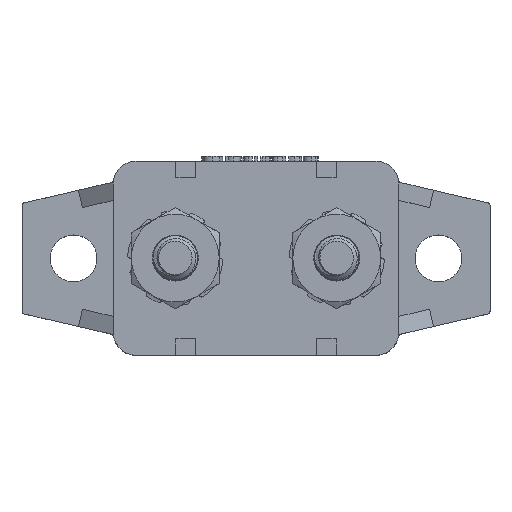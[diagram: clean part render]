
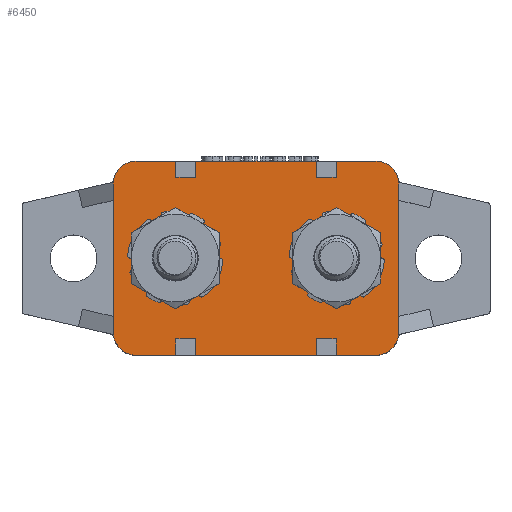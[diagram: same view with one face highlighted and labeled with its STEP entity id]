
A CAD part, top view. The second image highlights one B-rep face of the part: STEP entity #6450.
In plain terms, the highlighted planar face has unit normal (0, 0, 1).
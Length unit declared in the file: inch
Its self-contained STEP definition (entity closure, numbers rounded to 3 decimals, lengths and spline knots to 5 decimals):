
#695=PLANE('',#6845);
#925=FACE_OUTER_BOUND('',#1293,.T.);
#1293=EDGE_LOOP('',(#5265,#5266,#5267,#5268,#5269,#5270,#5271,#5272,#5273,
#5274,#5275,#5276,#5277,#5278,#5279,#5280,#5281,#5282,#5283,#5284,#5285,
#5286,#5287,#5288));
#1764=LINE('',#10814,#2228);
#1768=LINE('',#10822,#2232);
#1771=LINE('',#10828,#2235);
#1774=LINE('',#10835,#2238);
#1778=LINE('',#10843,#2242);
#1781=LINE('',#10849,#2245);
#1784=LINE('',#10856,#2248);
#1788=LINE('',#10864,#2252);
#1791=LINE('',#10870,#2255);
#1796=LINE('',#10879,#2260);
#1797=LINE('',#10882,#2261);
#1809=LINE('',#10912,#2273);
#1811=LINE('',#10915,#2275);
#1812=LINE('',#10919,#2276);
#1813=LINE('',#10923,#2277);
#1814=LINE('',#10925,#2278);
#1815=LINE('',#10927,#2279);
#1816=LINE('',#10928,#2280);
#1817=LINE('',#10930,#2281);
#1818=LINE('',#10934,#2282);
#2228=VECTOR('',#7739,0.3937);
#2232=VECTOR('',#7745,0.3937);
#2235=VECTOR('',#7750,0.3937);
#2238=VECTOR('',#7755,0.3937);
#2242=VECTOR('',#7761,0.3937);
#2245=VECTOR('',#7766,0.3937);
#2248=VECTOR('',#7771,0.3937);
#2252=VECTOR('',#7777,0.3937);
#2255=VECTOR('',#7782,0.3937);
#2260=VECTOR('',#7789,0.3937);
#2261=VECTOR('',#7792,0.3937);
#2273=VECTOR('',#7816,0.3937);
#2275=VECTOR('',#7820,0.3937);
#2276=VECTOR('',#7823,0.3937);
#2277=VECTOR('',#7826,0.3937);
#2278=VECTOR('',#7827,0.3937);
#2279=VECTOR('',#7828,0.3937);
#2280=VECTOR('',#7829,0.3937);
#2281=VECTOR('',#7830,0.3937);
#2282=VECTOR('',#7833,0.3937);
#2416=CIRCLE('',#6846,0.09843);
#2417=CIRCLE('',#6847,0.09843);
#2418=CIRCLE('',#6848,0.09843);
#2419=CIRCLE('',#6849,0.09843);
#2851=VERTEX_POINT('',#10812);
#2852=VERTEX_POINT('',#10813);
#2855=VERTEX_POINT('',#10821);
#2857=VERTEX_POINT('',#10827);
#2859=VERTEX_POINT('',#10833);
#2860=VERTEX_POINT('',#10834);
#2863=VERTEX_POINT('',#10842);
#2865=VERTEX_POINT('',#10848);
#2867=VERTEX_POINT('',#10854);
#2868=VERTEX_POINT('',#10855);
#2871=VERTEX_POINT('',#10863);
#2873=VERTEX_POINT('',#10869);
#2876=VERTEX_POINT('',#10877);
#2877=VERTEX_POINT('',#10881);
#2889=VERTEX_POINT('',#10911);
#2890=VERTEX_POINT('',#10916);
#2891=VERTEX_POINT('',#10918);
#2892=VERTEX_POINT('',#10920);
#2893=VERTEX_POINT('',#10922);
#2894=VERTEX_POINT('',#10924);
#2895=VERTEX_POINT('',#10926);
#2896=VERTEX_POINT('',#10929);
#2897=VERTEX_POINT('',#10931);
#2898=VERTEX_POINT('',#10933);
#3681=EDGE_CURVE('',#2851,#2852,#1764,.T.);
#3685=EDGE_CURVE('',#2855,#2851,#1768,.T.);
#3688=EDGE_CURVE('',#2857,#2855,#1771,.T.);
#3691=EDGE_CURVE('',#2859,#2860,#1774,.T.);
#3695=EDGE_CURVE('',#2863,#2859,#1778,.T.);
#3698=EDGE_CURVE('',#2865,#2863,#1781,.T.);
#3701=EDGE_CURVE('',#2867,#2868,#1784,.T.);
#3705=EDGE_CURVE('',#2871,#2867,#1788,.T.);
#3708=EDGE_CURVE('',#2868,#2873,#1791,.T.);
#3713=EDGE_CURVE('',#2860,#2876,#1796,.T.);
#3714=EDGE_CURVE('',#2877,#2857,#1797,.T.);
#3730=EDGE_CURVE('',#2889,#2871,#1809,.T.);
#3732=EDGE_CURVE('',#2852,#2865,#1811,.T.);
#3733=EDGE_CURVE('',#2890,#2876,#2416,.T.);
#3734=EDGE_CURVE('',#2890,#2891,#1812,.T.);
#3735=EDGE_CURVE('',#2892,#2891,#2417,.T.);
#3736=EDGE_CURVE('',#2892,#2893,#1813,.T.);
#3737=EDGE_CURVE('',#2893,#2894,#1814,.T.);
#3738=EDGE_CURVE('',#2894,#2895,#1815,.T.);
#3739=EDGE_CURVE('',#2895,#2889,#1816,.T.);
#3740=EDGE_CURVE('',#2873,#2896,#1817,.T.);
#3741=EDGE_CURVE('',#2897,#2896,#2418,.T.);
#3742=EDGE_CURVE('',#2897,#2898,#1818,.T.);
#3743=EDGE_CURVE('',#2877,#2898,#2419,.T.);
#5265=ORIENTED_EDGE('',*,*,#3688,.T.);
#5266=ORIENTED_EDGE('',*,*,#3685,.T.);
#5267=ORIENTED_EDGE('',*,*,#3681,.T.);
#5268=ORIENTED_EDGE('',*,*,#3732,.T.);
#5269=ORIENTED_EDGE('',*,*,#3698,.T.);
#5270=ORIENTED_EDGE('',*,*,#3695,.T.);
#5271=ORIENTED_EDGE('',*,*,#3691,.T.);
#5272=ORIENTED_EDGE('',*,*,#3713,.T.);
#5273=ORIENTED_EDGE('',*,*,#3733,.F.);
#5274=ORIENTED_EDGE('',*,*,#3734,.T.);
#5275=ORIENTED_EDGE('',*,*,#3735,.F.);
#5276=ORIENTED_EDGE('',*,*,#3736,.T.);
#5277=ORIENTED_EDGE('',*,*,#3737,.T.);
#5278=ORIENTED_EDGE('',*,*,#3738,.T.);
#5279=ORIENTED_EDGE('',*,*,#3739,.T.);
#5280=ORIENTED_EDGE('',*,*,#3730,.T.);
#5281=ORIENTED_EDGE('',*,*,#3705,.T.);
#5282=ORIENTED_EDGE('',*,*,#3701,.T.);
#5283=ORIENTED_EDGE('',*,*,#3708,.T.);
#5284=ORIENTED_EDGE('',*,*,#3740,.T.);
#5285=ORIENTED_EDGE('',*,*,#3741,.F.);
#5286=ORIENTED_EDGE('',*,*,#3742,.T.);
#5287=ORIENTED_EDGE('',*,*,#3743,.F.);
#5288=ORIENTED_EDGE('',*,*,#3714,.T.);
#6450=ADVANCED_FACE('',(#925),#695,.T.);
#6845=AXIS2_PLACEMENT_3D('',#10914,#7818,#7819);
#6846=AXIS2_PLACEMENT_3D('',#10917,#7821,#7822);
#6847=AXIS2_PLACEMENT_3D('',#10921,#7824,#7825);
#6848=AXIS2_PLACEMENT_3D('',#10932,#7831,#7832);
#6849=AXIS2_PLACEMENT_3D('',#10935,#7834,#7835);
#7739=DIRECTION('',(0.,-1.,0.));
#7745=DIRECTION('',(1.,0.,0.));
#7750=DIRECTION('',(0.,1.,0.));
#7755=DIRECTION('',(0.,-1.,0.));
#7761=DIRECTION('',(1.,0.,0.));
#7766=DIRECTION('',(0.,1.,0.));
#7771=DIRECTION('',(-1.,0.,0.));
#7777=DIRECTION('',(0.,-1.,0.));
#7782=DIRECTION('',(0.,1.,0.));
#7789=DIRECTION('',(1.,0.,0.));
#7792=DIRECTION('',(1.,0.,0.));
#7816=DIRECTION('',(-1.,0.,0.));
#7818=DIRECTION('center_axis',(0.,0.,1.));
#7819=DIRECTION('ref_axis',(1.,0.,0.));
#7820=DIRECTION('',(1.,0.,0.));
#7821=DIRECTION('center_axis',(0.,0.,-1.));
#7822=DIRECTION('ref_axis',(0.707,-0.707,0.));
#7823=DIRECTION('',(0.,1.,0.));
#7824=DIRECTION('center_axis',(0.,0.,-1.));
#7825=DIRECTION('ref_axis',(0.707,0.707,0.));
#7826=DIRECTION('',(-1.,0.,0.));
#7827=DIRECTION('',(0.,-1.,0.));
#7828=DIRECTION('',(-1.,0.,0.));
#7829=DIRECTION('',(0.,1.,0.));
#7830=DIRECTION('',(-1.,0.,0.));
#7831=DIRECTION('center_axis',(0.,0.,-1.));
#7832=DIRECTION('ref_axis',(-0.707,0.707,0.));
#7833=DIRECTION('',(0.,-1.,0.));
#7834=DIRECTION('center_axis',(0.,0.,-1.));
#7835=DIRECTION('ref_axis',(-0.707,-0.707,0.));
#10812=CARTESIAN_POINT('',(0.3525,0.07,0.65));
#10813=CARTESIAN_POINT('',(0.3525,0.,0.65));
#10814=CARTESIAN_POINT('',(0.3525,0.2425,0.65));
#10821=CARTESIAN_POINT('',(0.2675,0.07,0.65));
#10822=CARTESIAN_POINT('',(0.43875,0.07,0.65));
#10827=CARTESIAN_POINT('',(0.2675,0.,0.65));
#10828=CARTESIAN_POINT('',(0.2675,0.2075,0.65));
#10833=CARTESIAN_POINT('',(0.9525,0.07,0.65));
#10834=CARTESIAN_POINT('',(0.9525,0.,0.65));
#10835=CARTESIAN_POINT('',(0.9525,0.2425,0.65));
#10842=CARTESIAN_POINT('',(0.8675,0.07,0.65));
#10843=CARTESIAN_POINT('',(0.73875,0.07,0.65));
#10848=CARTESIAN_POINT('',(0.8675,0.,0.65));
#10849=CARTESIAN_POINT('',(0.8675,0.2075,0.65));
#10854=CARTESIAN_POINT('',(0.3525,0.76,0.65));
#10855=CARTESIAN_POINT('',(0.2675,0.76,0.65));
#10856=CARTESIAN_POINT('',(0.48125,0.76,0.65));
#10863=CARTESIAN_POINT('',(0.3525,0.83,0.65));
#10864=CARTESIAN_POINT('',(0.3525,0.6225,0.65));
#10869=CARTESIAN_POINT('',(0.2675,0.83,0.65));
#10870=CARTESIAN_POINT('',(0.2675,0.5875,0.65));
#10877=CARTESIAN_POINT('',(1.12157,0.,0.65));
#10879=CARTESIAN_POINT('',(1.22,0.,0.65));
#10881=CARTESIAN_POINT('',(0.09843,0.,0.65));
#10882=CARTESIAN_POINT('',(1.22,0.,0.65));
#10911=CARTESIAN_POINT('',(0.8675,0.83,0.65));
#10912=CARTESIAN_POINT('',(0.,0.83,0.65));
#10914=CARTESIAN_POINT('Origin',(0.61,0.415,0.65));
#10915=CARTESIAN_POINT('',(1.22,0.,0.65));
#10916=CARTESIAN_POINT('',(1.22,0.09843,0.65));
#10917=CARTESIAN_POINT('Origin',(1.12157,0.09843,0.65));
#10918=CARTESIAN_POINT('',(1.22,0.73157,0.65));
#10919=CARTESIAN_POINT('',(1.22,0.83,0.65));
#10920=CARTESIAN_POINT('',(1.12157,0.83,0.65));
#10921=CARTESIAN_POINT('Origin',(1.12157,0.73157,0.65));
#10922=CARTESIAN_POINT('',(0.9525,0.83,0.65));
#10923=CARTESIAN_POINT('',(0.,0.83,0.65));
#10924=CARTESIAN_POINT('',(0.9525,0.76,0.65));
#10925=CARTESIAN_POINT('',(0.9525,0.6225,0.65));
#10926=CARTESIAN_POINT('',(0.8675,0.76,0.65));
#10927=CARTESIAN_POINT('',(0.78125,0.76,0.65));
#10928=CARTESIAN_POINT('',(0.8675,0.5875,0.65));
#10929=CARTESIAN_POINT('',(0.09843,0.83,0.65));
#10930=CARTESIAN_POINT('',(0.,0.83,0.65));
#10931=CARTESIAN_POINT('',(0.,0.73157,0.65));
#10932=CARTESIAN_POINT('Origin',(0.09843,0.73157,0.65));
#10933=CARTESIAN_POINT('',(0.,0.09843,0.65));
#10934=CARTESIAN_POINT('',(0.,0.,
0.65));
#10935=CARTESIAN_POINT('Origin',(0.09843,0.09843,
0.65));
